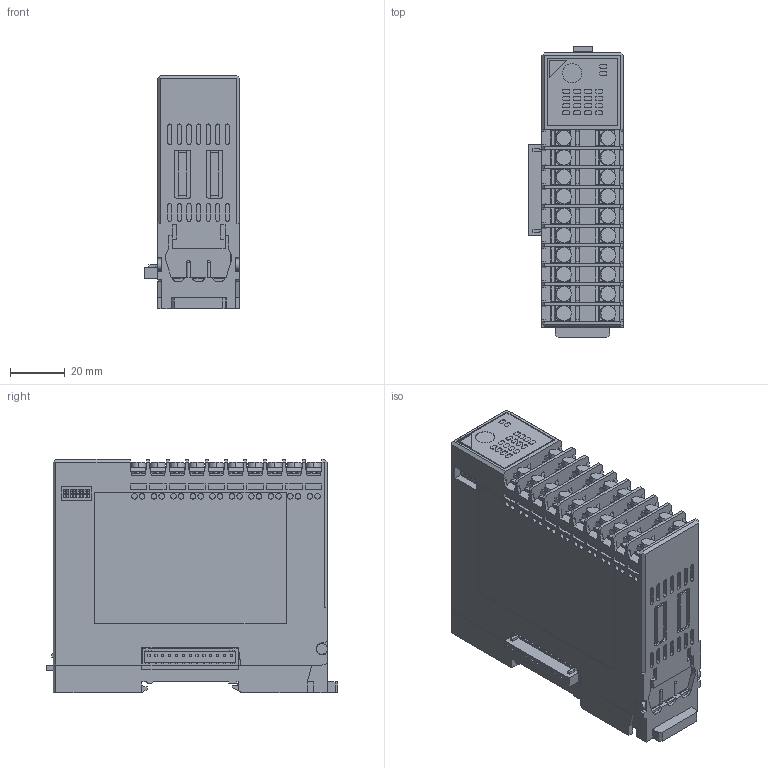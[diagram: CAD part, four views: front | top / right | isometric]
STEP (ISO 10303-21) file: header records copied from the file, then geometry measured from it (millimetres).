
FILE_DESCRIPTION (( 'STEP AP203' ), '1' );
FILE_NAME ('QDM1-Dxxxx0T_251017.STEP', '2025-10-17T05:59:24', ( '' ), ( '' ), 'SwSTEP 2.0', 'SolidWorks 2022', '' );
FILE_SCHEMA (( 'CONFIG_CONTROL_DESIGN' ));
Length unit declared in the file: millimetre
Products named in the file (1): QDM1-Dxxxx0T_251017
Bounding box: 34.6 x 106.3 x 85.1 mm (x, y, z)
Volume: 237923.2 mm3; surface area: 50819.6 mm2
Topology: 22 solids, 22 shells, 2052 faces, 5212 edges, 3450 vertices
Faces by surface type: plane 1605, cylinder 443, torus 4
Entity records: 61257 total; most frequent: CARTESIAN_POINT 10811, ORIENTED_EDGE 10424, DIRECTION 10120, EDGE_CURVE 5212, VECTOR 4346, LINE 4346, VERTEX_POINT 3450, AXIS2_PLACEMENT_3D 2887
